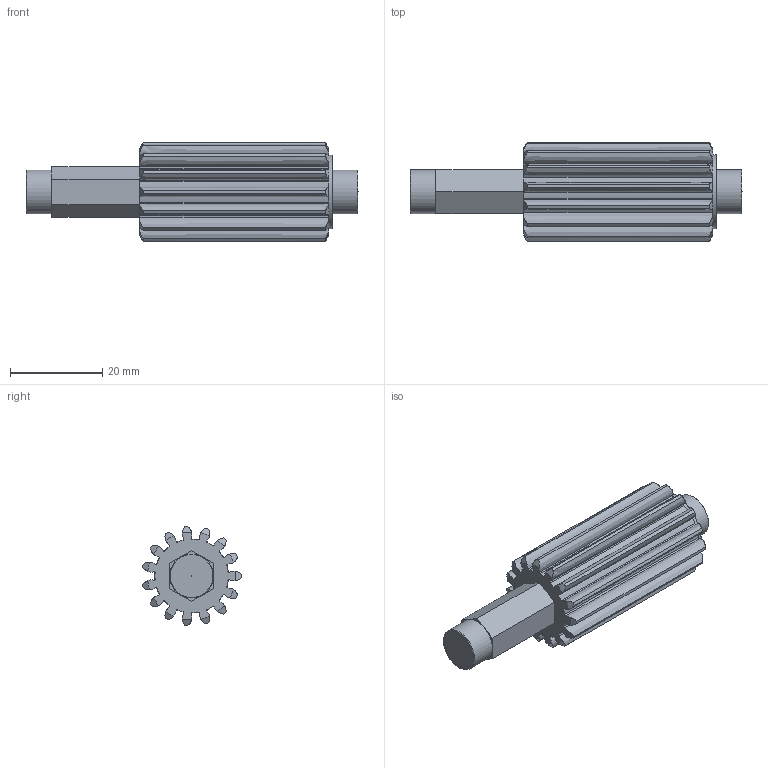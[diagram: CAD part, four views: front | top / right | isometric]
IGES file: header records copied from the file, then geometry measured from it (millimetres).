
Global section: file name: No Iges File Name specified; native system: AutoDesk Inventor R6.0; preprocessor: AutoDesk Inventor Iges Exporter R6.0; author: No Author specified; organization: No Organization specified; date: 20080103.191239; units: inch
Bounding box: 71.88 x 21.42 x 21.53 mm (x, y, z)
Surface area: 6653.5 mm2 (no closed solid volume)
Topology: 0 solids, 0 shells, 167 faces, 902 edges, 896 vertices
Faces by surface type: revolution 126, plane 41
